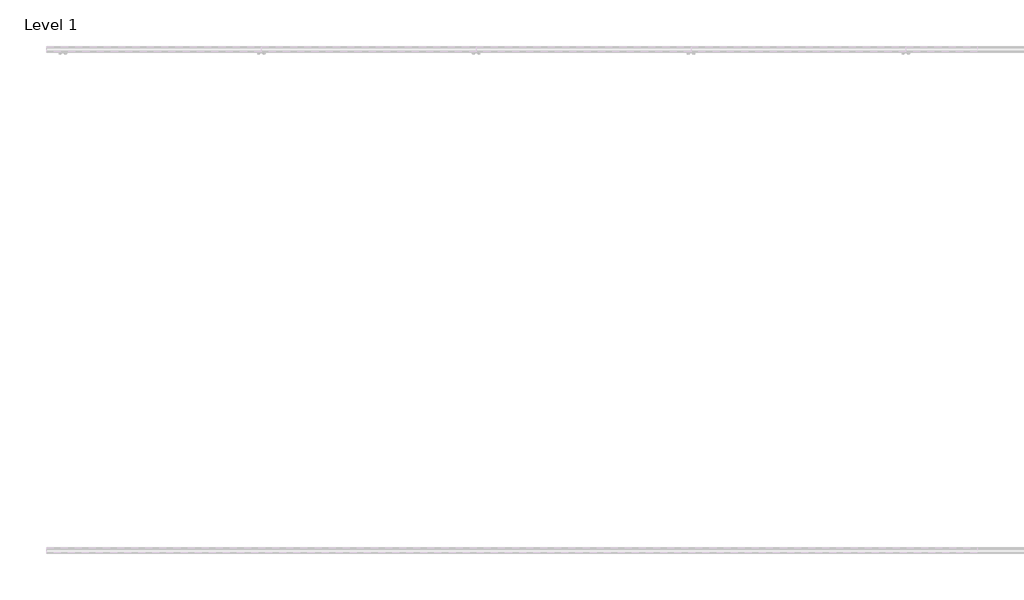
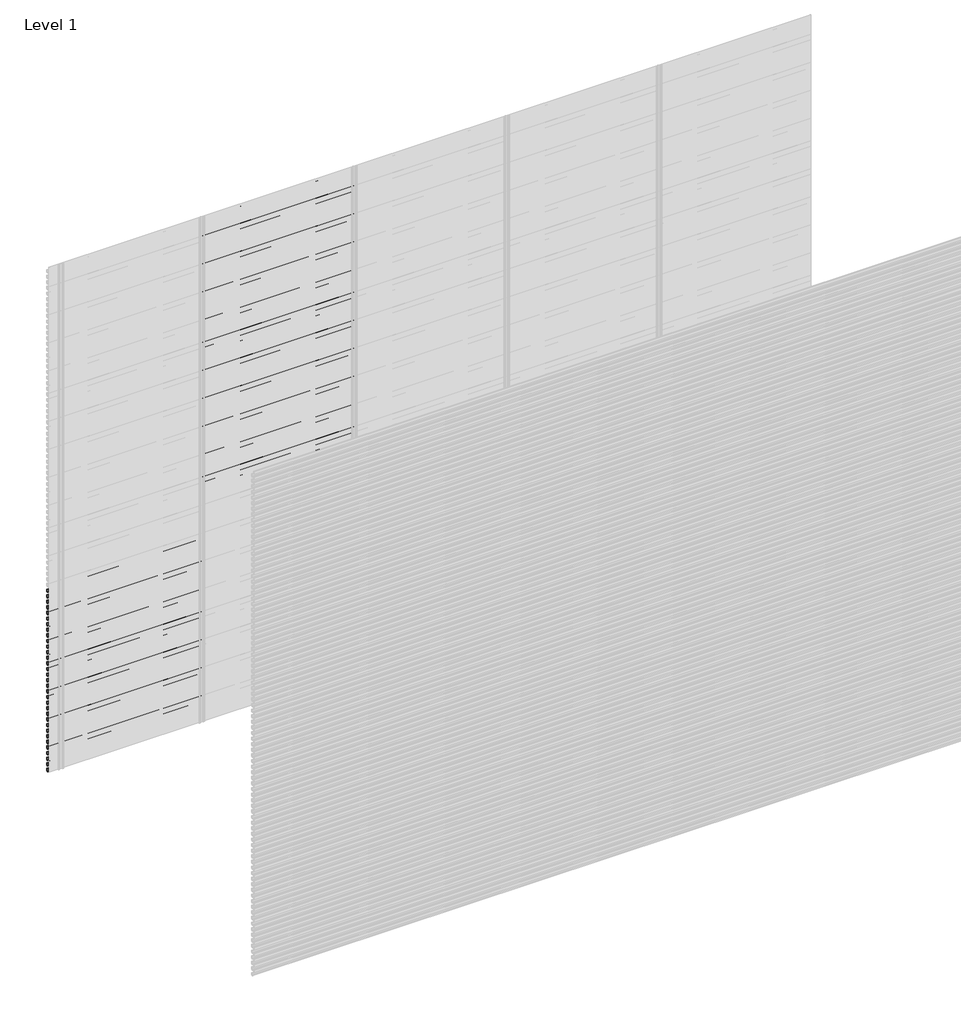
# One storey, part 90 of 96: 83 proxies.
"""IFC4 building model written with IfcOpenShell, lengths in millimetres."""

from ifc_helpers import new_model, si_unit, frame, origin, place, context, project, spatial, polyline, outline, extrude, element, save

model = new_model("IFC4")

# Units and contexts
model_context = context("Model", 3, world=origin())
ifc_project = project(units=[si_unit("LENGTHUNIT", "METRE", prefix="MILLI")], contexts=[model_context])

# Site, building, storey
site = spatial("IfcSite", under=ifc_project)
building = spatial("IfcBuilding", under=site)
storey = spatial("IfcBuildingStorey", under=building, Name="Level 1", Elevation=0.0)

# Proxies
placement = place(None, origin())
element("IfcBuildingElementProxy", 1, Name="Wall Sweeps", at=placement, inside=storey, context=model_context, shape_type="SweptSolid", body=[
    extrude(outline(polyline([(22.4, 1073.6655033), (22.4, 1059.3779188), (17.5885035, 1056.6), (17.5885035, 1057.8701706), (21.15, 1059.9264016), (21.15, 1072.9437382), (2.0, 1084.0000799), (2.0, 1098.9), (3.25, 1098.9), (3.25, 1084.7217609), (22.4, 1073.6655033)])), frame((0.0, 0.0, 0.0), z_axis=(1.0, 0.0, 0.0), x_axis=(0.0, 1.0, 0.0)), (0.0, 0.0, 1.0), 857.1428571),
])
element("IfcBuildingElementProxy", 2, Name="Wall Sweeps", at=placement, inside=storey, context=model_context, shape_type="SweptSolid", body=[
    extrude(outline(polyline([(22.4, 1040.3655033), (22.4, 1026.0779188), (17.5885035, 1023.3), (17.5885035, 1024.5701706), (21.15, 1026.6264016), (21.15, 1039.6437382), (2.0, 1050.7000799), (2.0, 1065.6), (3.25, 1065.6), (3.25, 1051.4217609), (22.4, 1040.3655033)])), frame((0.0, 0.0, 0.0), z_axis=(1.0, 0.0, 0.0), x_axis=(0.0, 1.0, 0.0)), (0.0, 0.0, 1.0), 857.1428571),
])
element("IfcBuildingElementProxy", 3, Name="Wall Sweeps", at=placement, inside=storey, context=model_context, shape_type="SweptSolid", body=[
    extrude(outline(polyline([(22.4, 1007.0655033), (22.4, 992.7779188), (17.5885035, 990.0), (17.5885035, 991.2701706), (21.15, 993.3264016), (21.15, 1006.3437382), (2.0, 1017.4000799), (2.0, 1032.3), (3.25, 1032.3), (3.25, 1018.1217609), (22.4, 1007.0655033)])), frame((0.0, 0.0, 0.0), z_axis=(1.0, 0.0, 0.0), x_axis=(0.0, 1.0, 0.0)), (0.0, 0.0, 1.0), 857.1428571),
])
element("IfcBuildingElementProxy", 4, Name="Wall Sweeps", at=placement, inside=storey, context=model_context, shape_type="SweptSolid", body=[
    extrude(outline(polyline([(22.4, 973.7655033), (22.4, 959.4779188), (17.5885035, 956.7), (17.5885035, 957.9701706), (21.15, 960.0264016), (21.15, 973.0437382), (2.0, 984.1000799), (2.0, 999.0), (3.25, 999.0), (3.25, 984.8217609), (22.4, 973.7655033)])), frame((0.0, 0.0, 0.0), z_axis=(1.0, 0.0, 0.0), x_axis=(0.0, 1.0, 0.0)), (0.0, 0.0, 1.0), 857.1428571),
])
element("IfcBuildingElementProxy", 5, Name="Wall Sweeps", at=placement, inside=storey, context=model_context, shape_type="SweptSolid", body=[
    extrude(outline(polyline([(22.4, 940.4655033), (22.4, 926.1779188), (17.5885035, 923.4), (17.5885035, 924.6701706), (21.15, 926.7264016), (21.15, 939.7437382), (2.0, 950.8000799), (2.0, 965.7), (3.25, 965.7), (3.25, 951.5217609), (22.4, 940.4655033)])), frame((0.0, 0.0, 0.0), z_axis=(1.0, 0.0, 0.0), x_axis=(0.0, 1.0, 0.0)), (0.0, 0.0, 1.0), 857.1428571),
])
element("IfcBuildingElementProxy", 6, Name="Wall Sweeps", at=placement, inside=storey, context=model_context, shape_type="SweptSolid", body=[
    extrude(outline(polyline([(22.4, 907.1655033), (22.4, 892.8779188), (17.5885035, 890.1), (17.5885035, 891.3701706), (21.15, 893.4264016), (21.15, 906.4437382), (2.0, 917.5000799), (2.0, 932.4), (3.25, 932.4), (3.25, 918.2217609), (22.4, 907.1655033)])), frame((0.0, 0.0, 0.0), z_axis=(1.0, 0.0, 0.0), x_axis=(0.0, 1.0, 0.0)), (0.0, 0.0, 1.0), 857.1428571),
])
element("IfcBuildingElementProxy", 7, Name="Wall Sweeps", at=placement, inside=storey, context=model_context, shape_type="SweptSolid", body=[
    extrude(outline(polyline([(22.4, 873.8655033), (22.4, 859.5779188), (17.5885035, 856.8), (17.5885035, 858.0701706), (21.15, 860.1264016), (21.15, 873.1437382), (2.0, 884.2000799), (2.0, 899.1), (3.25, 899.1), (3.25, 884.9217609), (22.4, 873.8655033)])), frame((0.0, 0.0, 0.0), z_axis=(1.0, 0.0, 0.0), x_axis=(0.0, 1.0, 0.0)), (0.0, 0.0, 1.0), 857.1428571),
])
element("IfcBuildingElementProxy", 8, Name="Wall Sweeps", at=placement, inside=storey, context=model_context, shape_type="SweptSolid", body=[
    extrude(outline(polyline([(22.4, 840.5655033), (22.4, 826.2779188), (17.5885035, 823.5), (17.5885035, 824.7701706), (21.15, 826.8264016), (21.15, 839.8437382), (2.0, 850.9000799), (2.0, 865.8), (3.25, 865.8), (3.25, 851.6217609), (22.4, 840.5655033)])), frame((0.0, 0.0, 0.0), z_axis=(1.0, 0.0, 0.0), x_axis=(0.0, 1.0, 0.0)), (0.0, 0.0, 1.0), 857.1428571),
])
element("IfcBuildingElementProxy", 9, Name="Wall Sweeps", at=placement, inside=storey, context=model_context, shape_type="SweptSolid", body=[
    extrude(outline(polyline([(22.4, 807.2655033), (22.4, 792.9779188), (17.5885035, 790.2), (17.5885035, 791.4701706), (21.15, 793.5264016), (21.15, 806.5437382), (2.0, 817.6000799), (2.0, 832.5), (3.25, 832.5), (3.25, 818.3217609), (22.4, 807.2655033)])), frame((0.0, 0.0, 0.0), z_axis=(1.0, 0.0, 0.0), x_axis=(0.0, 1.0, 0.0)), (0.0, 0.0, 1.0), 857.1428571),
])
element("IfcBuildingElementProxy", 10, Name="Wall Sweeps", at=placement, inside=storey, context=model_context, shape_type="SweptSolid", body=[
    extrude(outline(polyline([(22.4, 773.9655033), (22.4, 759.6779188), (17.5885035, 756.9), (17.5885035, 758.1701706), (21.15, 760.2264016), (21.15, 773.2437382), (2.0, 784.3000799), (2.0, 799.2), (3.25, 799.2), (3.25, 785.0217609), (22.4, 773.9655033)])), frame((0.0, 0.0, 0.0), z_axis=(1.0, 0.0, 0.0), x_axis=(0.0, 1.0, 0.0)), (0.0, 0.0, 1.0), 857.1428571),
])
element("IfcBuildingElementProxy", 11, Name="Wall Sweeps", at=placement, inside=storey, context=model_context, shape_type="SweptSolid", body=[
    extrude(outline(polyline([(22.4, 740.6655033), (22.4, 726.3779188), (17.5885035, 723.6), (17.5885035, 724.8701706), (21.15, 726.9264016), (21.15, 739.9437382), (2.0, 751.0000799), (2.0, 765.9), (3.25, 765.9), (3.25, 751.7217609), (22.4, 740.6655033)])), frame((0.0, 0.0, 0.0), z_axis=(1.0, 0.0, 0.0), x_axis=(0.0, 1.0, 0.0)), (0.0, 0.0, 1.0), 857.1428571),
])
element("IfcBuildingElementProxy", 12, Name="Wall Sweeps", at=placement, inside=storey, context=model_context, shape_type="SweptSolid", body=[
    extrude(outline(polyline([(22.4, 707.3655033), (22.4, 693.0779188), (17.5885035, 690.3), (17.5885035, 691.5701706), (21.15, 693.6264016), (21.15, 706.6437382), (2.0, 717.7000799), (2.0, 732.6), (3.25, 732.6), (3.25, 718.4217609), (22.4, 707.3655033)])), frame((0.0, 0.0, 0.0), z_axis=(1.0, 0.0, 0.0), x_axis=(0.0, 1.0, 0.0)), (0.0, 0.0, 1.0), 857.1428571),
])
element("IfcBuildingElementProxy", 13, Name="Wall Sweeps", at=placement, inside=storey, context=model_context, shape_type="SweptSolid", body=[
    extrude(outline(polyline([(22.4, 674.0655033), (22.4, 659.7779188), (17.5885035, 657.0), (17.5885035, 658.2701706), (21.15, 660.3264016), (21.15, 673.3437382), (2.0, 684.4000799), (2.0, 699.3), (3.25, 699.3), (3.25, 685.1217609), (22.4, 674.0655033)])), frame((0.0, 0.0, 0.0), z_axis=(1.0, 0.0, 0.0), x_axis=(0.0, 1.0, 0.0)), (0.0, 0.0, 1.0), 857.1428571),
])
element("IfcBuildingElementProxy", 14, Name="Wall Sweeps", at=placement, inside=storey, context=model_context, shape_type="SweptSolid", body=[
    extrude(outline(polyline([(22.4, 640.7655033), (22.4, 626.4779188), (17.5885035, 623.7), (17.5885035, 624.9701706), (21.15, 627.0264016), (21.15, 640.0437382), (2.0, 651.1000799), (2.0, 666.0), (3.25, 666.0), (3.25, 651.8217609), (22.4, 640.7655033)])), frame((0.0, 0.0, 0.0), z_axis=(1.0, 0.0, 0.0), x_axis=(0.0, 1.0, 0.0)), (0.0, 0.0, 1.0), 857.1428571),
])
element("IfcBuildingElementProxy", 15, Name="Wall Sweeps", at=placement, inside=storey, context=model_context, shape_type="SweptSolid", body=[
    extrude(outline(polyline([(22.4, 607.4655033), (22.4, 593.1779188), (17.5885035, 590.4), (17.5885035, 591.6701706), (21.15, 593.7264016), (21.15, 606.7437382), (2.0, 617.8000799), (2.0, 632.7), (3.25, 632.7), (3.25, 618.5217609), (22.4, 607.4655033)])), frame((0.0, 0.0, 0.0), z_axis=(1.0, 0.0, 0.0), x_axis=(0.0, 1.0, 0.0)), (0.0, 0.0, 1.0), 857.1428571),
])
element("IfcBuildingElementProxy", 16, Name="Wall Sweeps", at=placement, inside=storey, context=model_context, shape_type="SweptSolid", body=[
    extrude(outline(polyline([(22.4, 574.1655033), (22.4, 559.8779188), (17.5885035, 557.1), (17.5885035, 558.3701706), (21.15, 560.4264016), (21.15, 573.4437382), (2.0, 584.5000799), (2.0, 599.4), (3.25, 599.4), (3.25, 585.2217609), (22.4, 574.1655033)])), frame((0.0, 0.0, 0.0), z_axis=(1.0, 0.0, 0.0), x_axis=(0.0, 1.0, 0.0)), (0.0, 0.0, 1.0), 857.1428571),
])
element("IfcBuildingElementProxy", 17, Name="Wall Sweeps", at=placement, inside=storey, context=model_context, shape_type="SweptSolid", body=[
    extrude(outline(polyline([(22.4, 540.8655033), (22.4, 526.5779188), (17.5885035, 523.8), (17.5885035, 525.0701706), (21.15, 527.1264016), (21.15, 540.1437382), (2.0, 551.2000799), (2.0, 566.1), (3.25, 566.1), (3.25, 551.9217609), (22.4, 540.8655033)])), frame((0.0, 0.0, 0.0), z_axis=(1.0, 0.0, 0.0), x_axis=(0.0, 1.0, 0.0)), (0.0, 0.0, 1.0), 857.1428571),
])
element("IfcBuildingElementProxy", 18, Name="Wall Sweeps", at=placement, inside=storey, context=model_context, shape_type="SweptSolid", body=[
    extrude(outline(polyline([(22.4, 507.5655033), (22.4, 493.2779188), (17.5885035, 490.5), (17.5885035, 491.7701706), (21.15, 493.8264016), (21.15, 506.8437382), (2.0, 517.9000799), (2.0, 532.8), (3.25, 532.8), (3.25, 518.6217609), (22.4, 507.5655033)])), frame((0.0, 0.0, 0.0), z_axis=(1.0, 0.0, 0.0), x_axis=(0.0, 1.0, 0.0)), (0.0, 0.0, 1.0), 857.1428571),
])
element("IfcBuildingElementProxy", 19, Name="Wall Sweeps", at=placement, inside=storey, context=model_context, shape_type="SweptSolid", body=[
    extrude(outline(polyline([(22.4, 474.2655033), (22.4, 459.9779188), (17.5885035, 457.2), (17.5885035, 458.4701706), (21.15, 460.5264016), (21.15, 473.5437382), (2.0, 484.6000799), (2.0, 499.5), (3.25, 499.5), (3.25, 485.3217609), (22.4, 474.2655033)])), frame((0.0, 0.0, 0.0), z_axis=(1.0, 0.0, 0.0), x_axis=(0.0, 1.0, 0.0)), (0.0, 0.0, 1.0), 857.1428571),
])
element("IfcBuildingElementProxy", 20, Name="Wall Sweeps", at=placement, inside=storey, context=model_context, shape_type="SweptSolid", body=[
    extrude(outline(polyline([(22.4, 440.9655033), (22.4, 426.6779188), (17.5885035, 423.9), (17.5885035, 425.1701706), (21.15, 427.2264016), (21.15, 440.2437382), (2.0, 451.3000799), (2.0, 466.2), (3.25, 466.2), (3.25, 452.0217609), (22.4, 440.9655033)])), frame((0.0, 0.0, 0.0), z_axis=(1.0, 0.0, 0.0), x_axis=(0.0, 1.0, 0.0)), (0.0, 0.0, 1.0), 857.1428571),
])
element("IfcBuildingElementProxy", 21, Name="Wall Sweeps", at=placement, inside=storey, context=model_context, shape_type="SweptSolid", body=[
    extrude(outline(polyline([(22.4, 407.6655033), (22.4, 393.3779188), (17.5885035, 390.6), (17.5885035, 391.8701706), (21.15, 393.9264016), (21.15, 406.9437382), (2.0, 418.0000799), (2.0, 432.9), (3.25, 432.9), (3.25, 418.7217609), (22.4, 407.6655033)])), frame((0.0, 0.0, 0.0), z_axis=(1.0, 0.0, 0.0), x_axis=(0.0, 1.0, 0.0)), (0.0, 0.0, 1.0), 857.1428571),
])
element("IfcBuildingElementProxy", 22, Name="Wall Sweeps", at=placement, inside=storey, context=model_context, shape_type="SweptSolid", body=[
    extrude(outline(polyline([(22.4, 374.3655033), (22.4, 360.0779188), (17.5885035, 357.3), (17.5885035, 358.5701706), (21.15, 360.6264016), (21.15, 373.6437382), (2.0, 384.7000799), (2.0, 399.6), (3.25, 399.6), (3.25, 385.4217609), (22.4, 374.3655033)])), frame((0.0, 0.0, 0.0), z_axis=(1.0, 0.0, 0.0), x_axis=(0.0, 1.0, 0.0)), (0.0, 0.0, 1.0), 857.1428571),
])
element("IfcBuildingElementProxy", 23, Name="Wall Sweeps", at=placement, inside=storey, context=model_context, shape_type="SweptSolid", body=[
    extrude(outline(polyline([(22.4, 341.0655033), (22.4, 326.7779188), (17.5885035, 324.0), (17.5885035, 325.2701706), (21.15, 327.3264016), (21.15, 340.3437382), (2.0, 351.4000799), (2.0, 366.3), (3.25, 366.3), (3.25, 352.1217609), (22.4, 341.0655033)])), frame((0.0, 0.0, 0.0), z_axis=(1.0, 0.0, 0.0), x_axis=(0.0, 1.0, 0.0)), (0.0, 0.0, 1.0), 857.1428571),
])
element("IfcBuildingElementProxy", 24, Name="Wall Sweeps", at=placement, inside=storey, context=model_context, shape_type="SweptSolid", body=[
    extrude(outline(polyline([(22.4, 307.7655033), (22.4, 293.4779188), (17.5885035, 290.7), (17.5885035, 291.9701706), (21.15, 294.0264016), (21.15, 307.0437382), (2.0, 318.1000799), (2.0, 333.0), (3.25, 333.0), (3.25, 318.8217609), (22.4, 307.7655033)])), frame((0.0, 0.0, 0.0), z_axis=(1.0, 0.0, 0.0), x_axis=(0.0, 1.0, 0.0)), (0.0, 0.0, 1.0), 857.1428571),
])
element("IfcBuildingElementProxy", 25, Name="Wall Sweeps", at=placement, inside=storey, context=model_context, shape_type="SweptSolid", body=[
    extrude(outline(polyline([(22.4, 274.4655033), (22.4, 260.1779188), (17.5885035, 257.4), (17.5885035, 258.6701706), (21.15, 260.7264016), (21.15, 273.7437382), (2.0, 284.8000799), (2.0, 299.7), (3.25, 299.7), (3.25, 285.5217609), (22.4, 274.4655033)])), frame((0.0, 0.0, 0.0), z_axis=(1.0, 0.0, 0.0), x_axis=(0.0, 1.0, 0.0)), (0.0, 0.0, 1.0), 857.1428571),
])
element("IfcBuildingElementProxy", 26, Name="Wall Sweeps", at=placement, inside=storey, context=model_context, shape_type="SweptSolid", body=[
    extrude(outline(polyline([(22.4, 241.1655033), (22.4, 226.8779188), (17.5885035, 224.1), (17.5885035, 225.3701706), (21.15, 227.4264016), (21.15, 240.4437382), (2.0, 251.5000799), (2.0, 266.4), (3.25, 266.4), (3.25, 252.2217609), (22.4, 241.1655033)])), frame((0.0, 0.0, 0.0), z_axis=(1.0, 0.0, 0.0), x_axis=(0.0, 1.0, 0.0)), (0.0, 0.0, 1.0), 857.1428571),
])
element("IfcBuildingElementProxy", 27, Name="Wall Sweeps", at=placement, inside=storey, context=model_context, shape_type="SweptSolid", body=[
    extrude(outline(polyline([(22.4, 207.8655033), (22.4, 193.5779188), (17.5885035, 190.8), (17.5885035, 192.0701706), (21.15, 194.1264016), (21.15, 207.1437382), (2.0, 218.2000799), (2.0, 233.1), (3.25, 233.1), (3.25, 218.9217609), (22.4, 207.8655033)])), frame((0.0, 0.0, 0.0), z_axis=(1.0, 0.0, 0.0), x_axis=(0.0, 1.0, 0.0)), (0.0, 0.0, 1.0), 857.1428571),
])
element("IfcBuildingElementProxy", 28, Name="Wall Sweeps", at=placement, inside=storey, context=model_context, shape_type="SweptSolid", body=[
    extrude(outline(polyline([(22.4, 174.5655033), (22.4, 160.2779188), (17.5885035, 157.5), (17.5885035, 158.7701706), (21.15, 160.8264016), (21.15, 173.8437382), (2.0, 184.9000799), (2.0, 199.8), (3.25, 199.8), (3.25, 185.6217609), (22.4, 174.5655033)])), frame((0.0, 0.0, 0.0), z_axis=(1.0, 0.0, 0.0), x_axis=(0.0, 1.0, 0.0)), (0.0, 0.0, 1.0), 857.1428571),
])
element("IfcBuildingElementProxy", 29, Name="Wall Sweeps", at=placement, inside=storey, context=model_context, shape_type="SweptSolid", body=[
    extrude(outline(polyline([(22.4, 141.2655033), (22.4, 126.9779188), (17.5885035, 124.2), (17.5885035, 125.4701706), (21.15, 127.5264016), (21.15, 140.5437382), (2.0, 151.6000799), (2.0, 166.5), (3.25, 166.5), (3.25, 152.3217609), (22.4, 141.2655033)])), frame((0.0, 0.0, 0.0), z_axis=(1.0, 0.0, 0.0), x_axis=(0.0, 1.0, 0.0)), (0.0, 0.0, 1.0), 857.1428571),
])
element("IfcBuildingElementProxy", 30, Name="Wall Sweeps", at=placement, inside=storey, context=model_context, shape_type="SweptSolid", body=[
    extrude(outline(polyline([(22.4, 107.9655033), (22.4, 93.6779188), (17.5885035, 90.9), (17.5885035, 92.1701706), (21.15, 94.2264016), (21.15, 107.2437382), (2.0, 118.3000799), (2.0, 133.2), (3.25, 133.2), (3.25, 119.0217609), (22.4, 107.9655033)])), frame((0.0, 0.0, 0.0), z_axis=(1.0, 0.0, 0.0), x_axis=(0.0, 1.0, 0.0)), (0.0, 0.0, 1.0), 857.1428571),
])
element("IfcBuildingElementProxy", 31, Name="Wall Sweeps", at=placement, inside=storey, context=model_context, shape_type="SweptSolid", body=[
    extrude(outline(polyline([(22.4, 74.6655033), (22.4, 60.3779188), (17.5885035, 57.6), (17.5885035, 58.8701706), (21.15, 60.9264016), (21.15, 73.9437382), (2.0, 85.0000799), (2.0, 99.9), (3.25, 99.9), (3.25, 85.7217609), (22.4, 74.6655033)])), frame((0.0, 0.0, 0.0), z_axis=(1.0, 0.0, 0.0), x_axis=(0.0, 1.0, 0.0)), (0.0, 0.0, 1.0), 857.1428571),
])
element("IfcBuildingElementProxy", 32, Name="Wall Sweeps", at=placement, inside=storey, context=model_context, shape_type="SweptSolid", body=[
    extrude(outline(polyline([(22.4, 41.3655033), (22.4, 27.0779188), (17.5885035, 24.3), (17.5885035, 25.5701706), (21.15, 27.6264016), (21.15, 40.6437382), (2.0, 51.7000799), (2.0, 66.6), (3.25, 66.6), (3.25, 52.4217609), (22.4, 41.3655033)])), frame((0.0, 0.0, 0.0), z_axis=(1.0, 0.0, 0.0), x_axis=(0.0, 1.0, 0.0)), (0.0, 0.0, 1.0), 857.1428571),
])
element("IfcBuildingElementProxy", 33, Name="Wall Sweeps", at=placement, inside=storey, context=model_context, shape_type="SweptSolid", body=[
    extrude(outline(polyline([(22.4, 8.0655033), (22.4, -6.2220812), (17.5885035, -9.0), (17.5885035, -7.7298294), (21.15, -5.6735984), (21.15, 7.3437382), (2.0, 18.4000799), (2.0, 33.3), (3.25, 33.3), (3.25, 19.1217609), (22.4, 8.0655033)])), frame((0.0, 0.0, 0.0), z_axis=(1.0, 0.0, 0.0), x_axis=(0.0, 1.0, 0.0)), (0.0, 0.0, 1.0), 857.1428571),
])
element("IfcBuildingElementProxy", 34, Name="Wall Sweeps", at=placement, inside=storey, context=model_context, shape_type="SweptSolid", body=[
    extrude(outline(polyline([(22.4, 2971.7655033), (22.4, 2957.4779188), (17.5885035, 2954.7), (17.5885035, 2955.9701706), (21.15, 2958.0264016), (21.15, 2971.0437382), (2.0, 2982.1000799), (2.0, 2997.0), (3.25, 2997.0), (3.25, 2982.8217609), (22.4, 2971.7655033)])), frame((857.1428571, 0.0, 0.0), z_axis=(1.0, 0.0, 0.0), x_axis=(0.0, 1.0, 0.0)), (0.0, 0.0, 1.0), 857.1428571),
])
element("IfcBuildingElementProxy", 35, Name="Wall Sweeps", at=placement, inside=storey, context=model_context, shape_type="SweptSolid", body=[
    extrude(outline(polyline([(22.4, 2938.4655033), (22.4, 2924.1779188), (17.5885035, 2921.4), (17.5885035, 2922.6701706), (21.15, 2924.7264016), (21.15, 2937.7437382), (2.0, 2948.8000799), (2.0, 2963.7), (3.25, 2963.7), (3.25, 2949.5217609), (22.4, 2938.4655033)])), frame((857.1428571, 0.0, 0.0), z_axis=(1.0, 0.0, 0.0), x_axis=(0.0, 1.0, 0.0)), (0.0, 0.0, 1.0), 857.1428571),
])
element("IfcBuildingElementProxy", 36, Name="Wall Sweeps", at=placement, inside=storey, context=model_context, shape_type="SweptSolid", body=[
    extrude(outline(polyline([(22.4, 2905.1655033), (22.4, 2890.8779188), (17.5885035, 2888.1), (17.5885035, 2889.3701706), (21.15, 2891.4264016), (21.15, 2904.4437382), (2.0, 2915.5000799), (2.0, 2930.4), (3.25, 2930.4), (3.25, 2916.2217609), (22.4, 2905.1655033)])), frame((857.1428571, 0.0, 0.0), z_axis=(1.0, 0.0, 0.0), x_axis=(0.0, 1.0, 0.0)), (0.0, 0.0, 1.0), 857.1428571),
])
element("IfcBuildingElementProxy", 37, Name="Wall Sweeps", at=placement, inside=storey, context=model_context, shape_type="SweptSolid", body=[
    extrude(outline(polyline([(22.4, 2871.8655033), (22.4, 2857.5779188), (17.5885035, 2854.8), (17.5885035, 2856.0701706), (21.15, 2858.1264016), (21.15, 2871.1437382), (2.0, 2882.2000799), (2.0, 2897.1), (3.25, 2897.1), (3.25, 2882.9217609), (22.4, 2871.8655033)])), frame((857.1428571, 0.0, 0.0), z_axis=(1.0, 0.0, 0.0), x_axis=(0.0, 1.0, 0.0)), (0.0, 0.0, 1.0), 857.1428571),
])
element("IfcBuildingElementProxy", 38, Name="Wall Sweeps", at=placement, inside=storey, context=model_context, shape_type="SweptSolid", body=[
    extrude(outline(polyline([(22.4, 2838.5655033), (22.4, 2824.2779188), (17.5885035, 2821.5), (17.5885035, 2822.7701706), (21.15, 2824.8264016), (21.15, 2837.8437382), (2.0, 2848.9000799), (2.0, 2863.8), (3.25, 2863.8), (3.25, 2849.6217609), (22.4, 2838.5655033)])), frame((857.1428571, 0.0, 0.0), z_axis=(1.0, 0.0, 0.0), x_axis=(0.0, 1.0, 0.0)), (0.0, 0.0, 1.0), 857.1428571),
])
element("IfcBuildingElementProxy", 39, Name="Wall Sweeps", at=placement, inside=storey, context=model_context, shape_type="SweptSolid", body=[
    extrude(outline(polyline([(22.4, 2805.2655033), (22.4, 2790.9779188), (17.5885035, 2788.2), (17.5885035, 2789.4701706), (21.15, 2791.5264016), (21.15, 2804.5437382), (2.0, 2815.6000799), (2.0, 2830.5), (3.25, 2830.5), (3.25, 2816.3217609), (22.4, 2805.2655033)])), frame((857.1428571, 0.0, 0.0), z_axis=(1.0, 0.0, 0.0), x_axis=(0.0, 1.0, 0.0)), (0.0, 0.0, 1.0), 857.1428571),
])
element("IfcBuildingElementProxy", 40, Name="Wall Sweeps", at=placement, inside=storey, context=model_context, shape_type="SweptSolid", body=[
    extrude(outline(polyline([(22.4, 2771.9655033), (22.4, 2757.6779188), (17.5885035, 2754.9), (17.5885035, 2756.1701706), (21.15, 2758.2264016), (21.15, 2771.2437382), (2.0, 2782.3000799), (2.0, 2797.2), (3.25, 2797.2), (3.25, 2783.0217609), (22.4, 2771.9655033)])), frame((857.1428571, 0.0, 0.0), z_axis=(1.0, 0.0, 0.0), x_axis=(0.0, 1.0, 0.0)), (0.0, 0.0, 1.0), 857.1428571),
])
element("IfcBuildingElementProxy", 41, Name="Wall Sweeps", at=placement, inside=storey, context=model_context, shape_type="SweptSolid", body=[
    extrude(outline(polyline([(22.4, 2738.6655033), (22.4, 2724.3779188), (17.5885035, 2721.6), (17.5885035, 2722.8701706), (21.15, 2724.9264016), (21.15, 2737.9437382), (2.0, 2749.0000799), (2.0, 2763.9), (3.25, 2763.9), (3.25, 2749.7217609), (22.4, 2738.6655033)])), frame((857.1428571, 0.0, 0.0), z_axis=(1.0, 0.0, 0.0), x_axis=(0.0, 1.0, 0.0)), (0.0, 0.0, 1.0), 857.1428571),
])
element("IfcBuildingElementProxy", 42, Name="Wall Sweeps", at=placement, inside=storey, context=model_context, shape_type="SweptSolid", body=[
    extrude(outline(polyline([(22.4, 2705.3655033), (22.4, 2691.0779188), (17.5885035, 2688.3), (17.5885035, 2689.5701706), (21.15, 2691.6264016), (21.15, 2704.6437382), (2.0, 2715.7000799), (2.0, 2730.6), (3.25, 2730.6), (3.25, 2716.4217609), (22.4, 2705.3655033)])), frame((857.1428571, 0.0, 0.0), z_axis=(1.0, 0.0, 0.0), x_axis=(0.0, 1.0, 0.0)), (0.0, 0.0, 1.0), 857.1428571),
])
element("IfcBuildingElementProxy", 43, Name="Wall Sweeps", at=placement, inside=storey, context=model_context, shape_type="SweptSolid", body=[
    extrude(outline(polyline([(22.4, 2672.0655033), (22.4, 2657.7779188), (17.5885035, 2655.0), (17.5885035, 2656.2701706), (21.15, 2658.3264016), (21.15, 2671.3437382), (2.0, 2682.4000799), (2.0, 2697.3), (3.25, 2697.3), (3.25, 2683.1217609), (22.4, 2672.0655033)])), frame((857.1428571, 0.0, 0.0), z_axis=(1.0, 0.0, 0.0), x_axis=(0.0, 1.0, 0.0)), (0.0, 0.0, 1.0), 857.1428571),
])
element("IfcBuildingElementProxy", 44, Name="Wall Sweeps", at=placement, inside=storey, context=model_context, shape_type="SweptSolid", body=[
    extrude(outline(polyline([(22.4, 2638.7655033), (22.4, 2624.4779188), (17.5885035, 2621.7), (17.5885035, 2622.9701706), (21.15, 2625.0264016), (21.15, 2638.0437382), (2.0, 2649.1000799), (2.0, 2664.0), (3.25, 2664.0), (3.25, 2649.8217609), (22.4, 2638.7655033)])), frame((857.1428571, 0.0, 0.0), z_axis=(1.0, 0.0, 0.0), x_axis=(0.0, 1.0, 0.0)), (0.0, 0.0, 1.0), 857.1428571),
])
element("IfcBuildingElementProxy", 45, Name="Wall Sweeps", at=placement, inside=storey, context=model_context, shape_type="SweptSolid", body=[
    extrude(outline(polyline([(22.4, 2605.4655033), (22.4, 2591.1779188), (17.5885035, 2588.4), (17.5885035, 2589.6701706), (21.15, 2591.7264016), (21.15, 2604.7437382), (2.0, 2615.8000799), (2.0, 2630.7), (3.25, 2630.7), (3.25, 2616.5217609), (22.4, 2605.4655033)])), frame((857.1428571, 0.0, 0.0), z_axis=(1.0, 0.0, 0.0), x_axis=(0.0, 1.0, 0.0)), (0.0, 0.0, 1.0), 857.1428571),
])
element("IfcBuildingElementProxy", 46, Name="Wall Sweeps", at=placement, inside=storey, context=model_context, shape_type="SweptSolid", body=[
    extrude(outline(polyline([(22.4, 2572.1655033), (22.4, 2557.8779188), (17.5885035, 2555.1), (17.5885035, 2556.3701706), (21.15, 2558.4264016), (21.15, 2571.4437382), (2.0, 2582.5000799), (2.0, 2597.4), (3.25, 2597.4), (3.25, 2583.2217609), (22.4, 2572.1655033)])), frame((857.1428571, 0.0, 0.0), z_axis=(1.0, 0.0, 0.0), x_axis=(0.0, 1.0, 0.0)), (0.0, 0.0, 1.0), 857.1428571),
])
element("IfcBuildingElementProxy", 47, Name="Wall Sweeps", at=placement, inside=storey, context=model_context, shape_type="SweptSolid", body=[
    extrude(outline(polyline([(22.4, 2538.8655033), (22.4, 2524.5779188), (17.5885035, 2521.8), (17.5885035, 2523.0701706), (21.15, 2525.1264016), (21.15, 2538.1437382), (2.0, 2549.2000799), (2.0, 2564.1), (3.25, 2564.1), (3.25, 2549.9217609), (22.4, 2538.8655033)])), frame((857.1428571, 0.0, 0.0), z_axis=(1.0, 0.0, 0.0), x_axis=(0.0, 1.0, 0.0)), (0.0, 0.0, 1.0), 857.1428571),
])
element("IfcBuildingElementProxy", 48, Name="Wall Sweeps", at=placement, inside=storey, context=model_context, shape_type="SweptSolid", body=[
    extrude(outline(polyline([(22.4, 2505.5655033), (22.4, 2491.2779188), (17.5885035, 2488.5), (17.5885035, 2489.7701706), (21.15, 2491.8264016), (21.15, 2504.8437382), (2.0, 2515.9000799), (2.0, 2530.8), (3.25, 2530.8), (3.25, 2516.6217609), (22.4, 2505.5655033)])), frame((857.1428571, 0.0, 0.0), z_axis=(1.0, 0.0, 0.0), x_axis=(0.0, 1.0, 0.0)), (0.0, 0.0, 1.0), 857.1428571),
])
element("IfcBuildingElementProxy", 49, Name="Wall Sweeps", at=placement, inside=storey, context=model_context, shape_type="SweptSolid", body=[
    extrude(outline(polyline([(22.4, 2472.2655033), (22.4, 2457.9779188), (17.5885035, 2455.2), (17.5885035, 2456.4701706), (21.15, 2458.5264016), (21.15, 2471.5437382), (2.0, 2482.6000799), (2.0, 2497.5), (3.25, 2497.5), (3.25, 2483.3217609), (22.4, 2472.2655033)])), frame((857.1428571, 0.0, 0.0), z_axis=(1.0, 0.0, 0.0), x_axis=(0.0, 1.0, 0.0)), (0.0, 0.0, 1.0), 857.1428571),
])
element("IfcBuildingElementProxy", 50, Name="Wall Sweeps", at=placement, inside=storey, context=model_context, shape_type="SweptSolid", body=[
    extrude(outline(polyline([(22.4, 2438.9655033), (22.4, 2424.6779188), (17.5885035, 2421.9), (17.5885035, 2423.1701706), (21.15, 2425.2264016), (21.15, 2438.2437382), (2.0, 2449.3000799), (2.0, 2464.2), (3.25, 2464.2), (3.25, 2450.0217609), (22.4, 2438.9655033)])), frame((857.1428571, 0.0, 0.0), z_axis=(1.0, 0.0, 0.0), x_axis=(0.0, 1.0, 0.0)), (0.0, 0.0, 1.0), 857.1428571),
])
element("IfcBuildingElementProxy", 51, Name="Wall Sweeps", at=placement, inside=storey, context=model_context, shape_type="SweptSolid", body=[
    extrude(outline(polyline([(22.4, 2405.6655033), (22.4, 2391.3779188), (17.5885035, 2388.6), (17.5885035, 2389.8701706), (21.15, 2391.9264016), (21.15, 2404.9437382), (2.0, 2416.0000799), (2.0, 2430.9), (3.25, 2430.9), (3.25, 2416.7217609), (22.4, 2405.6655033)])), frame((857.1428571, 0.0, 0.0), z_axis=(1.0, 0.0, 0.0), x_axis=(0.0, 1.0, 0.0)), (0.0, 0.0, 1.0), 857.1428571),
])
element("IfcBuildingElementProxy", 52, Name="Wall Sweeps", at=placement, inside=storey, context=model_context, shape_type="SweptSolid", body=[
    extrude(outline(polyline([(22.4, 2372.3655033), (22.4, 2358.0779188), (17.5885035, 2355.3), (17.5885035, 2356.5701706), (21.15, 2358.6264016), (21.15, 2371.6437382), (2.0, 2382.7000799), (2.0, 2397.6), (3.25, 2397.6), (3.25, 2383.4217609), (22.4, 2372.3655033)])), frame((857.1428571, 0.0, 0.0), z_axis=(1.0, 0.0, 0.0), x_axis=(0.0, 1.0, 0.0)), (0.0, 0.0, 1.0), 857.1428571),
])
element("IfcBuildingElementProxy", 53, Name="Wall Sweeps", at=placement, inside=storey, context=model_context, shape_type="SweptSolid", body=[
    extrude(outline(polyline([(22.4, 2339.0655033), (22.4, 2324.7779188), (17.5885035, 2322.0), (17.5885035, 2323.2701706), (21.15, 2325.3264016), (21.15, 2338.3437382), (2.0, 2349.4000799), (2.0, 2364.3), (3.25, 2364.3), (3.25, 2350.1217609), (22.4, 2339.0655033)])), frame((857.1428571, 0.0, 0.0), z_axis=(1.0, 0.0, 0.0), x_axis=(0.0, 1.0, 0.0)), (0.0, 0.0, 1.0), 857.1428571),
])
element("IfcBuildingElementProxy", 54, Name="Wall Sweeps", at=placement, inside=storey, context=model_context, shape_type="SweptSolid", body=[
    extrude(outline(polyline([(22.4, 2305.7655033), (22.4, 2291.4779188), (17.5885035, 2288.7), (17.5885035, 2289.9701706), (21.15, 2292.0264016), (21.15, 2305.0437382), (2.0, 2316.1000799), (2.0, 2331.0), (3.25, 2331.0), (3.25, 2316.8217609), (22.4, 2305.7655033)])), frame((857.1428571, 0.0, 0.0), z_axis=(1.0, 0.0, 0.0), x_axis=(0.0, 1.0, 0.0)), (0.0, 0.0, 1.0), 857.1428571),
])
element("IfcBuildingElementProxy", 55, Name="Wall Sweeps", at=placement, inside=storey, context=model_context, shape_type="SweptSolid", body=[
    extrude(outline(polyline([(22.4, 2272.4655033), (22.4, 2258.1779188), (17.5885035, 2255.4), (17.5885035, 2256.6701706), (21.15, 2258.7264016), (21.15, 2271.7437382), (2.0, 2282.8000799), (2.0, 2297.7), (3.25, 2297.7), (3.25, 2283.5217609), (22.4, 2272.4655033)])), frame((857.1428571, 0.0, 0.0), z_axis=(1.0, 0.0, 0.0), x_axis=(0.0, 1.0, 0.0)), (0.0, 0.0, 1.0), 857.1428571),
])
element("IfcBuildingElementProxy", 56, Name="Wall Sweeps", at=placement, inside=storey, context=model_context, shape_type="SweptSolid", body=[
    extrude(outline(polyline([(22.4, 2239.1655033), (22.4, 2224.8779188), (17.5885035, 2222.1), (17.5885035, 2223.3701706), (21.15, 2225.4264016), (21.15, 2238.4437382), (2.0, 2249.5000799), (2.0, 2264.4), (3.25, 2264.4), (3.25, 2250.2217609), (22.4, 2239.1655033)])), frame((857.1428571, 0.0, 0.0), z_axis=(1.0, 0.0, 0.0), x_axis=(0.0, 1.0, 0.0)), (0.0, 0.0, 1.0), 857.1428571),
])
element("IfcBuildingElementProxy", 57, Name="Wall Sweeps", at=placement, inside=storey, context=model_context, shape_type="SweptSolid", body=[
    extrude(outline(polyline([(22.4, 2205.8655033), (22.4, 2191.5779188), (17.5885035, 2188.8), (17.5885035, 2190.0701706), (21.15, 2192.1264016), (21.15, 2205.1437382), (2.0, 2216.2000799), (2.0, 2231.1), (3.25, 2231.1), (3.25, 2216.9217609), (22.4, 2205.8655033)])), frame((857.1428571, 0.0, 0.0), z_axis=(1.0, 0.0, 0.0), x_axis=(0.0, 1.0, 0.0)), (0.0, 0.0, 1.0), 857.1428571),
])
element("IfcBuildingElementProxy", 58, Name="Wall Sweeps", at=placement, inside=storey, context=model_context, shape_type="SweptSolid", body=[
    extrude(outline(polyline([(22.4, 2172.5655033), (22.4, 2158.2779188), (17.5885035, 2155.5), (17.5885035, 2156.7701706), (21.15, 2158.8264016), (21.15, 2171.8437382), (2.0, 2182.9000799), (2.0, 2197.8), (3.25, 2197.8), (3.25, 2183.6217609), (22.4, 2172.5655033)])), frame((857.1428571, 0.0, 0.0), z_axis=(1.0, 0.0, 0.0), x_axis=(0.0, 1.0, 0.0)), (0.0, 0.0, 1.0), 857.1428571),
])
element("IfcBuildingElementProxy", 59, Name="Wall Sweeps", at=placement, inside=storey, context=model_context, shape_type="SweptSolid", body=[
    extrude(outline(polyline([(22.4, 2139.2655033), (22.4, 2124.9779188), (17.5885035, 2122.2), (17.5885035, 2123.4701706), (21.15, 2125.5264016), (21.15, 2138.5437382), (2.0, 2149.6000799), (2.0, 2164.5), (3.25, 2164.5), (3.25, 2150.3217609), (22.4, 2139.2655033)])), frame((857.1428571, 0.0, 0.0), z_axis=(1.0, 0.0, 0.0), x_axis=(0.0, 1.0, 0.0)), (0.0, 0.0, 1.0), 857.1428571),
])
element("IfcBuildingElementProxy", 60, Name="Wall Sweeps", at=placement, inside=storey, context=model_context, shape_type="SweptSolid", body=[
    extrude(outline(polyline([(22.4, 2105.9655033), (22.4, 2091.6779188), (17.5885035, 2088.9), (17.5885035, 2090.1701706), (21.15, 2092.2264016), (21.15, 2105.2437382), (2.0, 2116.3000799), (2.0, 2131.2), (3.25, 2131.2), (3.25, 2117.0217609), (22.4, 2105.9655033)])), frame((857.1428571, 0.0, 0.0), z_axis=(1.0, 0.0, 0.0), x_axis=(0.0, 1.0, 0.0)), (0.0, 0.0, 1.0), 857.1428571),
])
element("IfcBuildingElementProxy", 61, Name="Wall Sweeps", at=placement, inside=storey, context=model_context, shape_type="SweptSolid", body=[
    extrude(outline(polyline([(22.4, 2072.6655033), (22.4, 2058.3779188), (17.5885035, 2055.6), (17.5885035, 2056.8701706), (21.15, 2058.9264016), (21.15, 2071.9437382), (2.0, 2083.0000799), (2.0, 2097.9), (3.25, 2097.9), (3.25, 2083.7217609), (22.4, 2072.6655033)])), frame((857.1428571, 0.0, 0.0), z_axis=(1.0, 0.0, 0.0), x_axis=(0.0, 1.0, 0.0)), (0.0, 0.0, 1.0), 857.1428571),
])
element("IfcBuildingElementProxy", 62, Name="Wall Sweeps", at=placement, inside=storey, context=model_context, shape_type="SweptSolid", body=[
    extrude(outline(polyline([(22.4, 2039.3655033), (22.4, 2025.0779188), (17.5885035, 2022.3), (17.5885035, 2023.5701706), (21.15, 2025.6264016), (21.15, 2038.6437382), (2.0, 2049.7000799), (2.0, 2064.6), (3.25, 2064.6), (3.25, 2050.4217609), (22.4, 2039.3655033)])), frame((857.1428571, 0.0, 0.0), z_axis=(1.0, 0.0, 0.0), x_axis=(0.0, 1.0, 0.0)), (0.0, 0.0, 1.0), 857.1428571),
])
element("IfcBuildingElementProxy", 63, Name="Wall Sweeps", at=placement, inside=storey, context=model_context, shape_type="SweptSolid", body=[
    extrude(outline(polyline([(22.4, 2006.0655033), (22.4, 1991.7779188), (17.5885035, 1989.0), (17.5885035, 1990.2701706), (21.15, 1992.3264016), (21.15, 2005.3437382), (2.0, 2016.4000799), (2.0, 2031.3), (3.25, 2031.3), (3.25, 2017.1217609), (22.4, 2006.0655033)])), frame((857.1428571, 0.0, 0.0), z_axis=(1.0, 0.0, 0.0), x_axis=(0.0, 1.0, 0.0)), (0.0, 0.0, 1.0), 857.1428571),
])
element("IfcBuildingElementProxy", 64, Name="Wall Sweeps", at=placement, inside=storey, context=model_context, shape_type="SweptSolid", body=[
    extrude(outline(polyline([(22.4, 1972.7655033), (22.4, 1958.4779188), (17.5885035, 1955.7), (17.5885035, 1956.9701706), (21.15, 1959.0264016), (21.15, 1972.0437382), (2.0, 1983.1000799), (2.0, 1998.0), (3.25, 1998.0), (3.25, 1983.8217609), (22.4, 1972.7655033)])), frame((857.1428571, 0.0, 0.0), z_axis=(1.0, 0.0, 0.0), x_axis=(0.0, 1.0, 0.0)), (0.0, 0.0, 1.0), 857.1428571),
])
element("IfcBuildingElementProxy", 65, Name="Wall Sweeps", at=placement, inside=storey, context=model_context, shape_type="SweptSolid", body=[
    extrude(outline(polyline([(22.4, 1939.4655033), (22.4, 1925.1779188), (17.5885035, 1922.4), (17.5885035, 1923.6701706), (21.15, 1925.7264016), (21.15, 1938.7437382), (2.0, 1949.8000799), (2.0, 1964.7), (3.25, 1964.7), (3.25, 1950.5217609), (22.4, 1939.4655033)])), frame((857.1428571, 0.0, 0.0), z_axis=(1.0, 0.0, 0.0), x_axis=(0.0, 1.0, 0.0)), (0.0, 0.0, 1.0), 857.1428571),
])
element("IfcBuildingElementProxy", 66, Name="Wall Sweeps", at=placement, inside=storey, context=model_context, shape_type="SweptSolid", body=[
    extrude(outline(polyline([(22.4, 1906.1655033), (22.4, 1891.8779188), (17.5885035, 1889.1), (17.5885035, 1890.3701706), (21.15, 1892.4264016), (21.15, 1905.4437382), (2.0, 1916.5000799), (2.0, 1931.4), (3.25, 1931.4), (3.25, 1917.2217609), (22.4, 1906.1655033)])), frame((857.1428571, 0.0, 0.0), z_axis=(1.0, 0.0, 0.0), x_axis=(0.0, 1.0, 0.0)), (0.0, 0.0, 1.0), 857.1428571),
])
element("IfcBuildingElementProxy", 67, Name="Wall Sweeps", at=placement, inside=storey, context=model_context, shape_type="SweptSolid", body=[
    extrude(outline(polyline([(22.4, 1872.8655033), (22.4, 1858.5779188), (17.5885035, 1855.8), (17.5885035, 1857.0701706), (21.15, 1859.1264016), (21.15, 1872.1437382), (2.0, 1883.2000799), (2.0, 1898.1), (3.25, 1898.1), (3.25, 1883.9217609), (22.4, 1872.8655033)])), frame((857.1428571, 0.0, 0.0), z_axis=(1.0, 0.0, 0.0), x_axis=(0.0, 1.0, 0.0)), (0.0, 0.0, 1.0), 857.1428571),
])
element("IfcBuildingElementProxy", 68, Name="Wall Sweeps", at=placement, inside=storey, context=model_context, shape_type="SweptSolid", body=[
    extrude(outline(polyline([(22.4, 1839.5655033), (22.4, 1825.2779188), (17.5885035, 1822.5), (17.5885035, 1823.7701706), (21.15, 1825.8264016), (21.15, 1838.8437382), (2.0, 1849.9000799), (2.0, 1864.8), (3.25, 1864.8), (3.25, 1850.6217609), (22.4, 1839.5655033)])), frame((857.1428571, 0.0, 0.0), z_axis=(1.0, 0.0, 0.0), x_axis=(0.0, 1.0, 0.0)), (0.0, 0.0, 1.0), 857.1428571),
])
element("IfcBuildingElementProxy", 69, Name="Wall Sweeps", at=placement, inside=storey, context=model_context, shape_type="SweptSolid", body=[
    extrude(outline(polyline([(22.4, 1806.2655033), (22.4, 1791.9779188), (17.5885035, 1789.2), (17.5885035, 1790.4701706), (21.15, 1792.5264016), (21.15, 1805.5437382), (2.0, 1816.6000799), (2.0, 1831.5), (3.25, 1831.5), (3.25, 1817.3217609), (22.4, 1806.2655033)])), frame((857.1428571, 0.0, 0.0), z_axis=(1.0, 0.0, 0.0), x_axis=(0.0, 1.0, 0.0)), (0.0, 0.0, 1.0), 857.1428571),
])
element("IfcBuildingElementProxy", 70, Name="Wall Sweeps", at=placement, inside=storey, context=model_context, shape_type="SweptSolid", body=[
    extrude(outline(polyline([(22.4, 1772.9655033), (22.4, 1758.6779188), (17.5885035, 1755.9), (17.5885035, 1757.1701706), (21.15, 1759.2264016), (21.15, 1772.2437382), (2.0, 1783.3000799), (2.0, 1798.2), (3.25, 1798.2), (3.25, 1784.0217609), (22.4, 1772.9655033)])), frame((857.1428571, 0.0, 0.0), z_axis=(1.0, 0.0, 0.0), x_axis=(0.0, 1.0, 0.0)), (0.0, 0.0, 1.0), 857.1428571),
])
element("IfcBuildingElementProxy", 71, Name="Wall Sweeps", at=placement, inside=storey, context=model_context, shape_type="SweptSolid", body=[
    extrude(outline(polyline([(22.4, 1739.6655033), (22.4, 1725.3779188), (17.5885035, 1722.6), (17.5885035, 1723.8701706), (21.15, 1725.9264016), (21.15, 1738.9437382), (2.0, 1750.0000799), (2.0, 1764.9), (3.25, 1764.9), (3.25, 1750.7217609), (22.4, 1739.6655033)])), frame((857.1428571, 0.0, 0.0), z_axis=(1.0, 0.0, 0.0), x_axis=(0.0, 1.0, 0.0)), (0.0, 0.0, 1.0), 857.1428571),
])
element("IfcBuildingElementProxy", 72, Name="Wall Sweeps", at=placement, inside=storey, context=model_context, shape_type="SweptSolid", body=[
    extrude(outline(polyline([(22.4, 1706.3655033), (22.4, 1692.0779188), (17.5885035, 1689.3), (17.5885035, 1690.5701706), (21.15, 1692.6264016), (21.15, 1705.6437382), (2.0, 1716.7000799), (2.0, 1731.6), (3.25, 1731.6), (3.25, 1717.4217609), (22.4, 1706.3655033)])), frame((857.1428571, 0.0, 0.0), z_axis=(1.0, 0.0, 0.0), x_axis=(0.0, 1.0, 0.0)), (0.0, 0.0, 1.0), 857.1428571),
])
element("IfcBuildingElementProxy", 73, Name="Wall Sweeps", at=placement, inside=storey, context=model_context, shape_type="SweptSolid", body=[
    extrude(outline(polyline([(22.4, 1673.0655033), (22.4, 1658.7779188), (17.5885035, 1656.0), (17.5885035, 1657.2701706), (21.15, 1659.3264016), (21.15, 1672.3437382), (2.0, 1683.4000799), (2.0, 1698.3), (3.25, 1698.3), (3.25, 1684.1217609), (22.4, 1673.0655033)])), frame((857.1428571, 0.0, 0.0), z_axis=(1.0, 0.0, 0.0), x_axis=(0.0, 1.0, 0.0)), (0.0, 0.0, 1.0), 857.1428571),
])
element("IfcBuildingElementProxy", 74, Name="Wall Sweeps", at=placement, inside=storey, context=model_context, shape_type="SweptSolid", body=[
    extrude(outline(polyline([(22.4, 1639.7655033), (22.4, 1625.4779188), (17.5885035, 1622.7), (17.5885035, 1623.9701706), (21.15, 1626.0264016), (21.15, 1639.0437382), (2.0, 1650.1000799), (2.0, 1665.0), (3.25, 1665.0), (3.25, 1650.8217609), (22.4, 1639.7655033)])), frame((857.1428571, 0.0, 0.0), z_axis=(1.0, 0.0, 0.0), x_axis=(0.0, 1.0, 0.0)), (0.0, 0.0, 1.0), 857.1428571),
])
element("IfcBuildingElementProxy", 75, Name="Wall Sweeps", at=placement, inside=storey, context=model_context, shape_type="SweptSolid", body=[
    extrude(outline(polyline([(22.4, 1606.4655033), (22.4, 1592.1779188), (17.5885035, 1589.4), (17.5885035, 1590.6701706), (21.15, 1592.7264016), (21.15, 1605.7437382), (2.0, 1616.8000799), (2.0, 1631.7), (3.25, 1631.7), (3.25, 1617.5217609), (22.4, 1606.4655033)])), frame((857.1428571, 0.0, 0.0), z_axis=(1.0, 0.0, 0.0), x_axis=(0.0, 1.0, 0.0)), (0.0, 0.0, 1.0), 857.1428571),
])
element("IfcBuildingElementProxy", 76, Name="Wall Sweeps", at=placement, inside=storey, context=model_context, shape_type="SweptSolid", body=[
    extrude(outline(polyline([(22.4, 1573.1655033), (22.4, 1558.8779188), (17.5885035, 1556.1), (17.5885035, 1557.3701706), (21.15, 1559.4264016), (21.15, 1572.4437382), (2.0, 1583.5000799), (2.0, 1598.4), (3.25, 1598.4), (3.25, 1584.2217609), (22.4, 1573.1655033)])), frame((857.1428571, 0.0, 0.0), z_axis=(1.0, 0.0, 0.0), x_axis=(0.0, 1.0, 0.0)), (0.0, 0.0, 1.0), 857.1428571),
])
element("IfcBuildingElementProxy", 77, Name="Wall Sweeps", at=placement, inside=storey, context=model_context, shape_type="SweptSolid", body=[
    extrude(outline(polyline([(22.4, 1539.8655033), (22.4, 1525.5779188), (17.5885035, 1522.8), (17.5885035, 1524.0701706), (21.15, 1526.1264016), (21.15, 1539.1437382), (2.0, 1550.2000799), (2.0, 1565.1), (3.25, 1565.1), (3.25, 1550.9217609), (22.4, 1539.8655033)])), frame((857.1428571, 0.0, 0.0), z_axis=(1.0, 0.0, 0.0), x_axis=(0.0, 1.0, 0.0)), (0.0, 0.0, 1.0), 857.1428571),
])
element("IfcBuildingElementProxy", 78, Name="Wall Sweeps", at=placement, inside=storey, context=model_context, shape_type="SweptSolid", body=[
    extrude(outline(polyline([(22.4, 1506.5655033), (22.4, 1492.2779188), (17.5885035, 1489.5), (17.5885035, 1490.7701706), (21.15, 1492.8264016), (21.15, 1505.8437382), (2.0, 1516.9000799), (2.0, 1531.8), (3.25, 1531.8), (3.25, 1517.6217609), (22.4, 1506.5655033)])), frame((857.1428571, 0.0, 0.0), z_axis=(1.0, 0.0, 0.0), x_axis=(0.0, 1.0, 0.0)), (0.0, 0.0, 1.0), 857.1428571),
])
element("IfcBuildingElementProxy", 79, Name="Wall Sweeps", at=placement, inside=storey, context=model_context, shape_type="SweptSolid", body=[
    extrude(outline(polyline([(22.4, 1473.2655033), (22.4, 1458.9779188), (17.5885035, 1456.2), (17.5885035, 1457.4701706), (21.15, 1459.5264016), (21.15, 1472.5437382), (2.0, 1483.6000799), (2.0, 1498.5), (3.25, 1498.5), (3.25, 1484.3217609), (22.4, 1473.2655033)])), frame((857.1428571, 0.0, 0.0), z_axis=(1.0, 0.0, 0.0), x_axis=(0.0, 1.0, 0.0)), (0.0, 0.0, 1.0), 857.1428571),
])
element("IfcBuildingElementProxy", 80, Name="Wall Sweeps", at=placement, inside=storey, context=model_context, shape_type="SweptSolid", body=[
    extrude(outline(polyline([(22.4, 1439.9655033), (22.4, 1425.6779188), (17.5885035, 1422.9), (17.5885035, 1424.1701706), (21.15, 1426.2264016), (21.15, 1439.2437382), (2.0, 1450.3000799), (2.0, 1465.2), (3.25, 1465.2), (3.25, 1451.0217609), (22.4, 1439.9655033)])), frame((857.1428571, 0.0, 0.0), z_axis=(1.0, 0.0, 0.0), x_axis=(0.0, 1.0, 0.0)), (0.0, 0.0, 1.0), 857.1428571),
])
element("IfcBuildingElementProxy", 81, Name="Wall Sweeps", at=placement, inside=storey, context=model_context, shape_type="SweptSolid", body=[
    extrude(outline(polyline([(22.4, 1406.6655033), (22.4, 1392.3779188), (17.5885035, 1389.6), (17.5885035, 1390.8701706), (21.15, 1392.9264016), (21.15, 1405.9437382), (2.0, 1417.0000799), (2.0, 1431.9), (3.25, 1431.9), (3.25, 1417.7217609), (22.4, 1406.6655033)])), frame((857.1428571, 0.0, 0.0), z_axis=(1.0, 0.0, 0.0), x_axis=(0.0, 1.0, 0.0)), (0.0, 0.0, 1.0), 857.1428571),
])
element("IfcBuildingElementProxy", 82, Name="Wall Sweeps", at=placement, inside=storey, context=model_context, shape_type="SweptSolid", body=[
    extrude(outline(polyline([(22.4, 1373.3655033), (22.4, 1359.0779188), (17.5885035, 1356.3), (17.5885035, 1357.5701706), (21.15, 1359.6264016), (21.15, 1372.6437382), (2.0, 1383.7000799), (2.0, 1398.6), (3.25, 1398.6), (3.25, 1384.4217609), (22.4, 1373.3655033)])), frame((857.1428571, 0.0, 0.0), z_axis=(1.0, 0.0, 0.0), x_axis=(0.0, 1.0, 0.0)), (0.0, 0.0, 1.0), 857.1428571),
])
element("IfcBuildingElementProxy", 83, Name="Wall Sweeps", at=placement, inside=storey, context=model_context, shape_type="SweptSolid", body=[
    extrude(outline(polyline([(22.4, 1340.0655033), (22.4, 1325.7779188), (17.5885035, 1323.0), (17.5885035, 1324.2701706), (21.15, 1326.3264016), (21.15, 1339.3437382), (2.0, 1350.4000799), (2.0, 1365.3), (3.25, 1365.3), (3.25, 1351.1217609), (22.4, 1340.0655033)])), frame((857.1428571, 0.0, 0.0), z_axis=(1.0, 0.0, 0.0), x_axis=(0.0, 1.0, 0.0)), (0.0, 0.0, 1.0), 857.1428571),
])

save(model, "model.ifc")
